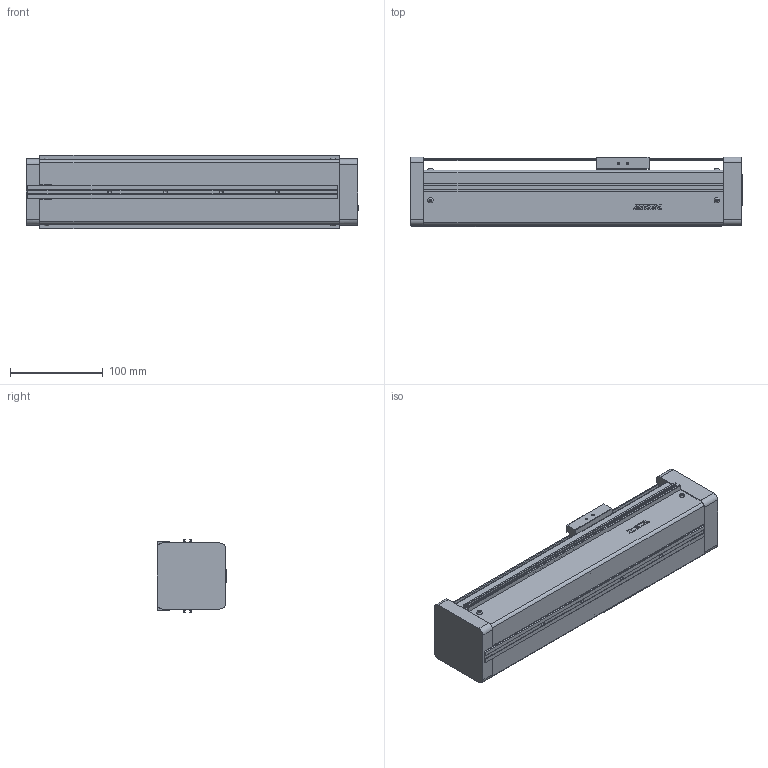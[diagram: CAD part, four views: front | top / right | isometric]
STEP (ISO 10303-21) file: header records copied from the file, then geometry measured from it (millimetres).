
FILE_DESCRIPTION(/* description */ (''),/* implementation_level */ '2;1');
FILE_NAME(/* name */ 'D:\混合母檔20191031\混和母檔\混和母檔\bin\Debug\Download\3D\KE7010C-150AF0\KE7010C-150AF0.stp',/* time_stamp */ '2019-11-04T14:07:07+08:00',/* author */ ('user'),/* organization */ (''),/* preprocessor_version */ 'ST-DEVELOPER v16.13',/* originating_system */ 'Autodesk Inventor 2018',/* authorisation */ '');
FILE_SCHEMA (('AUTOMOTIVE_DESIGN { 1 0 10303 214 3 1 1 }'));
Length unit declared in the file: millimetre
Products named in the file (3): KE7010C-150AF0; KE70-F0-BP; KE70-SL
Assembly tree (2 placements, depth 2):
  KE7010C-150AF0
    KE70-F0-BP
    KE70-SL
Bounding box: 357 x 75 x 79.4 mm (x, y, z)
Volume: 1484789.8 mm3; surface area: 227460.9 mm2
Topology: 2 solids, 29 shells, 807 faces, 2146 edges, 1411 vertices
Faces by surface type: plane 487, bspline 148, cylinder 102, cone 58, torus 12
Full cylindrical faces by diameter (mm): 2.459 x20, 3 x12, 3.242 x6, 3.5 x16, 4.134 x8, 5.7 x12, 6 x5, 30 x1
Entity records: 27090 total; most frequent: CARTESIAN_POINT 8671, ORIENTED_EDGE 3802, DIRECTION 3200, EDGE_CURVE 1901, VERTEX_POINT 1316, LINE 1252, VECTOR 1252, EDGE_LOOP 1011
